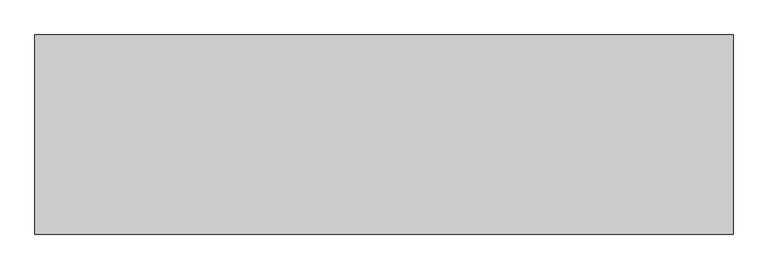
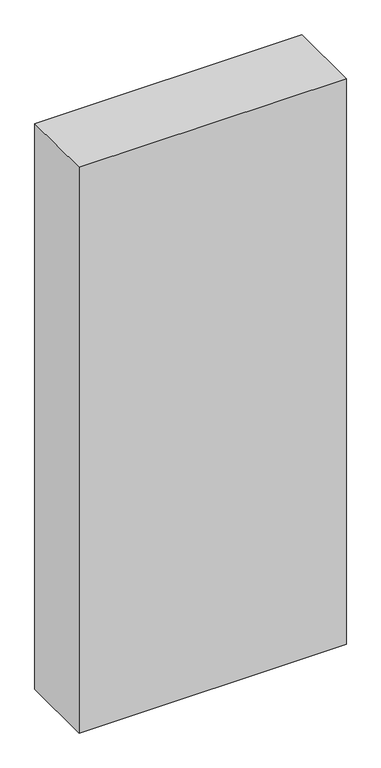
"""IFC4 building model written with IfcOpenShell, lengths in millimetres: proxy geometry."""

from ifc_helpers import new_model, si_unit, origin, origin_with_axes, place, context, project, spatial, polyline, outline, extrude, source, transform, mapped, element, save


def generic_models_4bbf8a29(model_context):
    return source(origin(), model_context, "Body", "SweptSolid", [
        extrude(outline(polyline([(-66034.998776, -8100.4850099), (-66034.998776, -7700.4850099), (-64634.998776, -7700.4850099), (-64634.998776, -8100.4850099), (-66034.998776, -8100.4850099)])), origin_with_axes(), (0.0, 0.0, 1.0), 3130.0),
    ])


if __name__ == "__main__":
    model = new_model("IFC4")
    model_context = context("Model", 3, world=origin())
    ifc_project = project(units=[si_unit("LENGTHUNIT", "METRE", prefix="MILLI")], contexts=[model_context])
    site = spatial("IfcSite", under=ifc_project)
    building = spatial("IfcBuilding", under=site)
    placement = place(None, origin())
    generic_models_shape = generic_models_4bbf8a29(model_context)
    element("IfcBuildingElementProxy", 1, Name="Generic Models", at=placement, inside=building, context=model_context, shape_type="MappedRepresentation", body=[
        mapped(generic_models_shape, transform((0.0, 0.0, 0.0), x_axis=(1.0, 0.0, 0.0), y_axis=(0.0, 1.0, 0.0), z_axis=(0.0, 0.0, 1.0))),
    ])
    save(model, "model.ifc")
